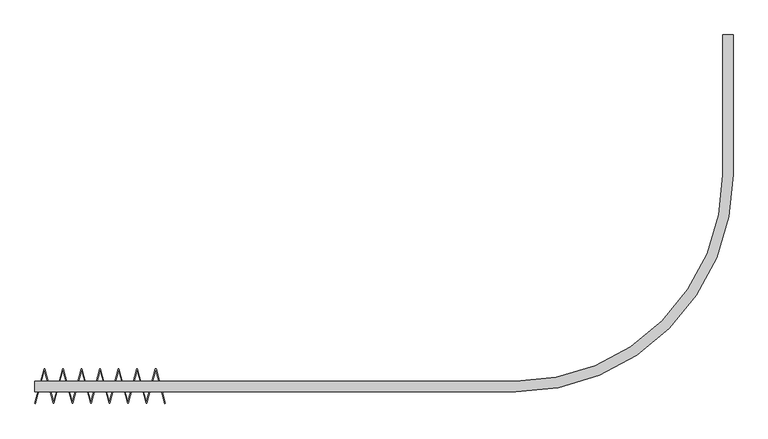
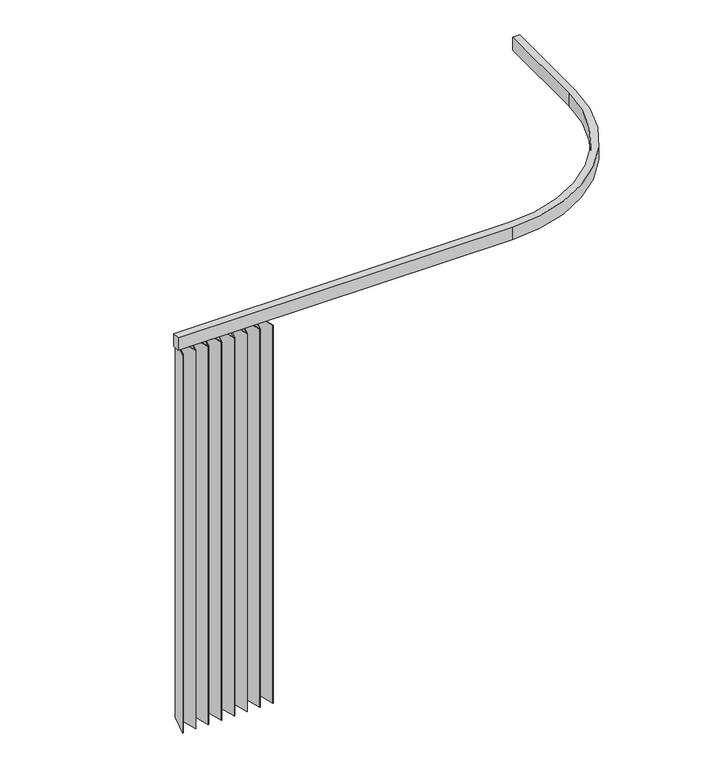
"""IFC4 building model written with IfcOpenShell, lengths in millimetres: furniture geometry, BIMHealth-Curtain_Consultant-LOD2A-v1 : BIMHealth-Curtain_Consultant-LOD2A-v1."""

import ifcopenshell
import ifcopenshell.guid

model = None  # the IFC model being written
_history = None  # IfcOwnerHistory: only IFC2X3 demands one
_inside = {}  # id of a spatial element -> (the spatial element, [elements in it])
_under = {}  # id of a project, library or spatial element -> (it, [spatial elements below it])
_declared = {}  # id of a project -> (the project, [libraries it declares])
_typed = {}  # id of a type object -> (the type object, [elements of that type])
_made_of = {}  # id of a material, layer set ... -> (it, [elements and type objects made of it])


def new_model(schema):
    """Start an empty IFC model of exactly this schema.

    Asked for "IFC4X3", IfcOpenShell would pick the latest addendum, in which some entities
    have other attributes; the version numbers below select the first issue.
    IFC2X3 requires an IfcOwnerHistory on every rooted entity: one is made here for all.
    """
    global model, _history
    if schema == "IFC4X3":
        model = ifcopenshell.file(schema_version=(4, 3, 0, 0))
    else:
        model = ifcopenshell.file(schema=schema)
    _inside.clear()
    _under.clear()
    _declared.clear()
    _typed.clear()
    _made_of.clear()
    _history = None
    if model.schema == "IFC2X3":
        org = make("IfcOrganization", Name="unknown")
        user = make(
            "IfcPersonAndOrganization",
            ThePerson=make("IfcPerson", FamilyName="unknown"),
            TheOrganization=org,
        )
        app = make(
            "IfcApplication",
            ApplicationDeveloper=org,
            Version="unknown",
            ApplicationFullName="unknown",
            ApplicationIdentifier="unknown",
        )
        _history = make(
            "IfcOwnerHistory",
            OwningUser=user,
            OwningApplication=app,
            ChangeAction="ADDED",
            CreationDate=0,
        )
    return model


def make(cls, **values):
    """One entity of the class cls with the attributes given. An attribute that is None is left unset."""
    return model.create_entity(
        cls, **{name: value for name, value in values.items() if value is not None}
    )


def rooted(cls, **values):
    """An entity with a GlobalId (a new one), such as an element, a storey or a relation."""
    return make(cls, GlobalId=ifcopenshell.guid.new(), OwnerHistory=_history, **values)


def si_unit(unit_type, name, prefix=None):
    """IfcSIUnit, for example si_unit("LENGTHUNIT", "METRE", prefix="MILLI")."""
    return make("IfcSIUnit", UnitType=unit_type, Prefix=prefix, Name=name)


def assignment(units):
    """IfcUnitAssignment: the units of a project."""
    return None if units is None else make("IfcUnitAssignment", Units=units)


def point(xyz):
    """IfcCartesianPoint."""
    return None if xyz is None else make("IfcCartesianPoint", Coordinates=xyz)


def direction(xyz):
    """IfcDirection."""
    return None if xyz is None else make("IfcDirection", DirectionRatios=xyz)


def frame(location, z_axis=None, x_axis=None):
    """IfcAxis2Placement3D, a coordinate frame: its origin and axes. An axis left out is left unset."""
    return make(
        "IfcAxis2Placement3D",
        Location=point(location),
        Axis=direction(z_axis),
        RefDirection=direction(x_axis),
    )


def frame_2d(location, x_axis=None):
    """IfcAxis2Placement2D, a coordinate frame in the plane: its origin and x axis."""
    return make(
        "IfcAxis2Placement2D", Location=point(location), RefDirection=direction(x_axis)
    )


def origin():
    """The frame at (0, 0, 0) with its axes left unset."""
    return frame((0.0, 0.0, 0.0))


def place(relative_to, where):
    """IfcLocalPlacement: puts the frame where relative to a parent placement (None: the world)."""
    return make(
        "IfcLocalPlacement", PlacementRelTo=relative_to, RelativePlacement=where
    )


def context(
    kind, dimensions, precision=None, world=None, true_north=None, identifier=None
):
    """IfcGeometricRepresentationContext, for example the 3D "Model" context."""
    return make(
        "IfcGeometricRepresentationContext",
        ContextIdentifier=identifier,
        ContextType=kind,
        CoordinateSpaceDimension=dimensions,
        Precision=precision,
        WorldCoordinateSystem=world,
        TrueNorth=true_north,
    )


def project(units=None, contexts=None):
    """IfcProject with its units and contexts."""
    return rooted(
        "IfcProject",
        Name="project",
        RepresentationContexts=contexts,
        UnitsInContext=assignment(units),
    )


def spatial(cls, under=None, at=None, **own):
    """A site, building, storey or space (cls), placed at a placement, below another one or the project."""
    s = rooted(cls, ObjectPlacement=at, **own)
    if under is not None:
        _under.setdefault(under.id(), (under, []))[1].append(s)
    return s


def polyline(points):
    """IfcPolyline through the points."""
    return make("IfcPolyline", Points=[point(p) for p in points])


def circle_curve(where, radius):
    """IfcCircle in the frame where."""
    return make("IfcCircle", Position=where, Radius=radius)


def trimmed(basis, trim1, trim2, sense, master):
    """IfcTrimmedCurve: the piece of a basis curve between two trims."""
    return make(
        "IfcTrimmedCurve",
        BasisCurve=basis,
        Trim1=trim1,
        Trim2=trim2,
        SenseAgreement=sense,
        MasterRepresentation=master,
    )


def segment(curve, same_sense, transition):
    """IfcCompositeCurveSegment."""
    return make(
        "IfcCompositeCurveSegment",
        Transition=transition,
        SameSense=same_sense,
        ParentCurve=curve,
    )


def composite_curve(segments, self_intersect=None):
    """IfcCompositeCurve: segments joined end to end."""
    return make("IfcCompositeCurve", Segments=segments, SelfIntersect=self_intersect)


def outline(outer, holes=None, kind="AREA"):
    """IfcArbitraryClosedProfileDef: a profile drawn as a closed curve; with holes, ...WithVoids."""
    if holes is None:
        return make("IfcArbitraryClosedProfileDef", ProfileType=kind, OuterCurve=outer)
    return make(
        "IfcArbitraryProfileDefWithVoids",
        ProfileType=kind,
        OuterCurve=outer,
        InnerCurves=holes,
    )


def extrude(swept, where, along, depth):
    """IfcExtrudedAreaSolid: the profile swept, set in the frame where, extruded along a direction by depth."""
    return make(
        "IfcExtrudedAreaSolid",
        SweptArea=swept,
        Position=where,
        ExtrudedDirection=direction(along),
        Depth=depth,
    )


def shape(context_of_items, identifier, shape_type, items):
    """IfcShapeRepresentation: the items that make up one representation, for example the "Body"."""
    return make(
        "IfcShapeRepresentation",
        ContextOfItems=context_of_items,
        RepresentationIdentifier=identifier,
        RepresentationType=shape_type,
        Items=items,
    )


def source(mapping_origin, context_of_items, identifier, shape_type, items):
    """IfcRepresentationMap: a shape defined once, which mapped items show again and again."""
    return make(
        "IfcRepresentationMap",
        MappingOrigin=mapping_origin,
        MappedRepresentation=shape(context_of_items, identifier, shape_type, items),
    )


def transform(
    local_origin,
    x_axis=None,
    y_axis=None,
    z_axis=None,
    scale=None,
    scale2=None,
    scale3=None,
    uniform=True,
):
    """IfcCartesianTransformationOperator3D, or its non-uniform kind. x_axis, y_axis, z_axis: its Axis1, 2, 3."""
    if uniform:
        return make(
            "IfcCartesianTransformationOperator3D",
            Axis1=direction(x_axis),
            Axis2=direction(y_axis),
            LocalOrigin=point(local_origin),
            Scale=scale,
            Axis3=direction(z_axis),
        )
    return make(
        "IfcCartesianTransformationOperator3DnonUniform",
        Axis1=direction(x_axis),
        Axis2=direction(y_axis),
        LocalOrigin=point(local_origin),
        Scale=scale,
        Axis3=direction(z_axis),
        Scale2=scale2,
        Scale3=scale3,
    )


def mapped(mapping_source, mapping_target):
    """IfcMappedItem: shows the shape of a source again, moved by a transform."""
    return make(
        "IfcMappedItem", MappingSource=mapping_source, MappingTarget=mapping_target
    )


def made_of(thing, what):
    """Note that an element or type object is made of a material, layer set ...; save() writes the relation."""
    if what is not None:
        _made_of.setdefault(what.id(), (what, []))[1].append(thing)
    return thing


def element(
    cls,
    number,
    at=None,
    inside=None,
    cuts=None,
    type_object=None,
    material=None,
    context=None,
    identifier="Body",
    shape_type=None,
    held_by="IfcProductDefinitionShape",
    body=None,
    shapes=None,
    **own,
):
    """One element of the class cls, such as IfcWall. Its Tag is "e" and its number.

    at: its placement. inside: the storey or other place that contains it. cuts: it is an
    opening in that element (IfcRelVoidsElement). A single representation is given by context,
    identifier, shape_type and body (its items); several are given by shapes. held_by: the class
    of the entity that holds the representations. save() writes the other relations.
    """
    e = rooted(cls, Tag="e%d" % number, ObjectPlacement=at, **own)
    if body is not None:
        shapes = [shape(context, identifier, shape_type, body)]
    if shapes is not None:
        e.Representation = make(held_by, Representations=shapes)
    if inside is not None:
        _inside.setdefault(inside.id(), (inside, []))[1].append(e)
    if cuts is not None:
        rooted(
            "IfcRelVoidsElement", RelatingBuildingElement=cuts, RelatedOpeningElement=e
        )
    if type_object is not None:
        _typed.setdefault(type_object.id(), (type_object, []))[1].append(e)
    return made_of(e, material)


def aggregate(whole, parts):
    """IfcRelAggregates: a whole, such as a stair, and the parts it consists of."""
    return rooted("IfcRelAggregates", RelatingObject=whole, RelatedObjects=parts)


def save(model, path):
    """Write the relations noted so far, then the file.

    IfcRelAggregates (storeys below a building ...), IfcRelContainedInSpatialStructure (elements
    in a storey), IfcRelDefinesByType, IfcRelAssociatesMaterial and IfcRelDeclares: one each for
    every whole, place, type object, material and project.
    """
    for whole, parts in _under.values():
        aggregate(whole, parts)
    for where, things in _inside.values():
        rooted(
            "IfcRelContainedInSpatialStructure",
            RelatedElements=things,
            RelatingStructure=where,
        )
    for kind, things in _typed.values():
        rooted("IfcRelDefinesByType", RelatedObjects=things, RelatingType=kind)
    for what, things in _made_of.values():
        rooted("IfcRelAssociatesMaterial", RelatedObjects=things, RelatingMaterial=what)
    for by, libraries in _declared.values():
        rooted("IfcRelDeclares", RelatingContext=by, RelatedDefinitions=libraries)
    model.write(path)


def furniture_3867e9a4(model_context):
    return source(origin(), model_context, "Body", "SweptSolid", [
        extrude(outline(composite_curve([segment(trimmed(circle_curve(frame_2d((1860.0, 840.0)), 800.0), [point((1860.0, 40.0))], [point((2660.0, 840.0))], True, "CARTESIAN"), True, "CONTINUOUS"), segment(polyline([(2660.0, 840.0), (2660.0, 1380.0), (2700.0, 1380.0), (2700.0, 840.0)]), True, "CONTINUOUS"), segment(trimmed(circle_curve(frame_2d((1860.0, 840.0)), 840.0), [point((2700.0, 840.0))], [point((1860.0, 0.0))], False, "CARTESIAN"), True, "CONTINUOUS"), segment(polyline([(1860.0, 0.0), (0.0, 0.0), (0.0, 40.0), (1860.0, 40.0)]), True, "CONTINUOUS")], self_intersect=False)), frame((0.0, 0.0, 2325.0), z_axis=(0.0, 0.0, 1.0), x_axis=(1.0, 0.0, 0.0)), (0.0, 0.0, 1.0), 75.0),
        extrude(outline(polyline([(35.8630189, 88.8426086), (37.9335712, 88.8426086), (72.761314, -41.1362967), (107.5890567, 88.8426086), (109.659609, 88.8426086), (144.4873517, -41.1362967), (179.3150944, 88.8426086), (181.3856468, 88.8426086), (216.2133895, -41.1362967), (251.0411322, 88.8426086), (253.1116846, 88.8426086), (287.9394273, -41.1362967), (322.76717, 88.8426086), (324.8377223, 88.8426086), (359.665465, -41.1362967), (394.4932078, 88.8426086), (396.5637601, 88.8426086), (431.3915028, -41.1362967), (466.2192455, 88.8426086), (468.2897979, 88.8426086), (504.1528168, -45.0), (502.2209651, -45.5176381), (467.2545217, 84.9789053), (432.426779, -45.0), (430.3562266, -45.0), (395.5284839, 84.9789053), (360.7007412, -45.0), (358.6301889, -45.0), (323.8024462, 84.9789053), (288.9747035, -45.0), (286.9041511, -45.0), (252.0764084, 84.9789053), (217.2486657, -45.0), (215.1781133, -45.0), (180.3503706, 84.9789053), (145.5226279, -45.0), (143.4520755, -45.0), (108.6243328, 84.9789053), (73.7965901, -45.0), (71.7260378, -45.0), (36.8982951, 84.9789053), (1.9318517, -45.5176381), (0.0, -45.0), (35.8630189, 88.8426086)])), frame((0.0, 0.0, 100.0), z_axis=(0.0, 0.0, 1.0), x_axis=(1.0, 0.0, 0.0)), (0.0, 0.0, 1.0), 2225.0),
    ])


if __name__ == "__main__":
    model = new_model("IFC4")
    model_context = context("Model", 3, world=origin())
    ifc_project = project(units=[si_unit("LENGTHUNIT", "METRE", prefix="MILLI")], contexts=[model_context])
    site = spatial("IfcSite", under=ifc_project)
    building = spatial("IfcBuilding", under=site)
    placement = place(None, origin())
    furniture_shape = furniture_3867e9a4(model_context)
    element("IfcFurniture", 1, ObjectType="BIMHealth-Curtain_Consultant-LOD2A-v1 : BIMHealth-Curtain_Consultant-LOD2A-v1", at=placement, inside=building, context=model_context, shape_type="MappedRepresentation", body=[
        mapped(furniture_shape, transform((0.0, 0.0, 0.0), x_axis=(1.0, 0.0, 0.0), y_axis=(0.0, 1.0, 0.0), z_axis=(0.0, 0.0, 1.0))),
    ])
    save(model, "model.ifc")
